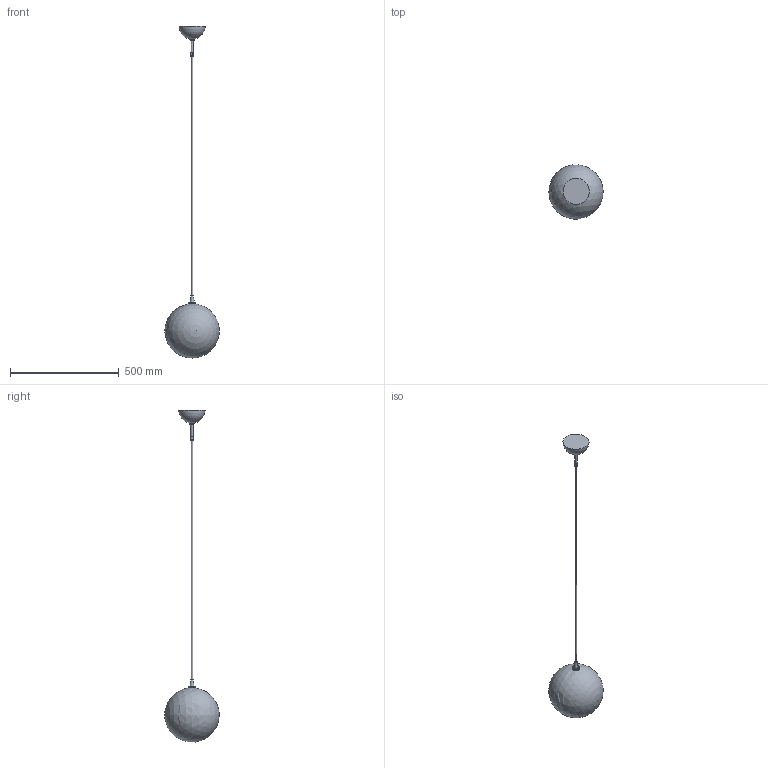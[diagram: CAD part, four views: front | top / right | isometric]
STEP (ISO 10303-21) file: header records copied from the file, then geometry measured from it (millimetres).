
FILE_DESCRIPTION(/* description */ (''),/* implementation_level */ '2;1');
FILE_NAME(/* name */ 'T:\B076 Glass Globe Pendant 250\Pliki bryłowe handlowe\B076 Glass Globe 250 3D files_na stronę\B076 Glass Globe 250.stp',/* time_stamp */ '2022-02-02T12:43:22+01:00',/* author */ ('Mariusz Awariusz'),/* organization */ (''),/* preprocessor_version */ 'ST-DEVELOPER v18.1',/* originating_system */ 'Autodesk Inventor 2022',/* authorisation */ '');
FILE_SCHEMA (('AUTOMOTIVE_DESIGN { 1 0 10303 214 3 1 1 }'));
Length unit declared in the file: millimetre
Products named in the file (1): Glass Globe Pendant 250 CE v3_na potrzeby plików 3D_2_jako część_
korpusy bryłowe
Bounding box: 249.01 x 249.33 x 1523.25 mm (x, y, z)
Volume: 907764 mm3; surface area: 457120.2 mm2
Topology: 15 solids, 15 shells, 102 faces, 177 edges, 110 vertices
Faces by surface type: plane 39, cylinder 29, cone 26, torus 4, sphere 3, bspline 1
Full cylindrical faces by diameter (mm): 2.693 x3, 3 x3, 4 x2, 5.5 x3, 7 x1, 8.6 x2, 10 x3, 11 x1, 12.6 x1, 13 x3, 13.3 x1, 14 x1, 18 x1, 19.8 x1, 20 x1, 33 x1, 35 x1
Entity records: 2486 total; most frequent: DIRECTION 481, CARTESIAN_POINT 420, ORIENTED_EDGE 346, AXIS2_PLACEMENT_3D 210, EDGE_CURVE 173, EDGE_LOOP 113, VERTEX_POINT 110, CIRCLE 108
